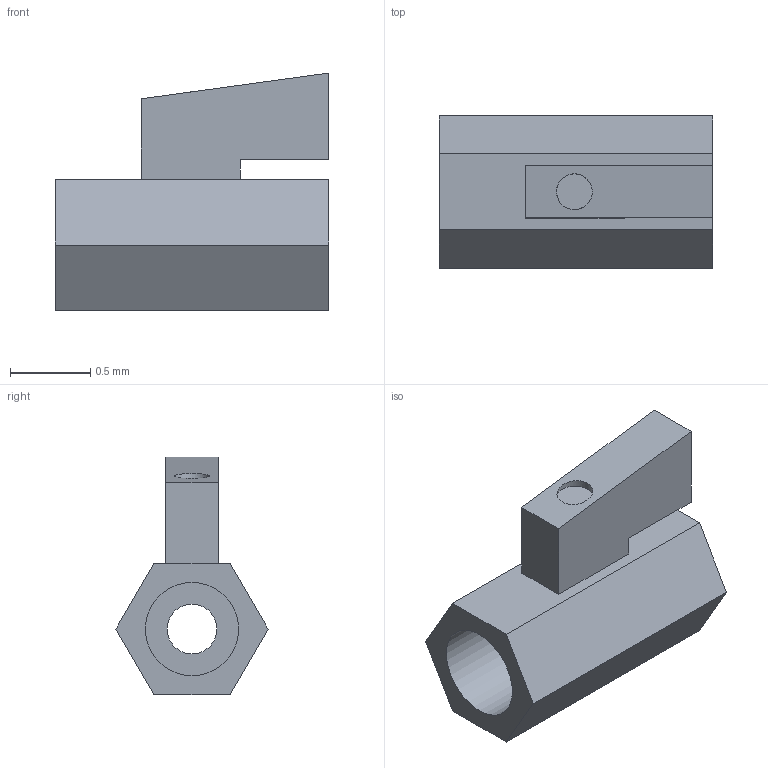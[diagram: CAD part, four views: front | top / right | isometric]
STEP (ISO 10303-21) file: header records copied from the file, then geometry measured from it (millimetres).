
FILE_DESCRIPTION(('Open CASCADE Model'),'2;1');
FILE_NAME('Open CASCADE Shape Model','2021-09-23T08:42:24',('Author'),( 'Open CASCADE'),'Open CASCADE STEP processor 7.3','Open CASCADE 7.3' ,'Unknown');
FILE_SCHEMA(('AUTOMOTIVE_DESIGN { 1 0 10303 214 1 1 1 1 }'));
Length unit declared in the file: millimetre
Products named in the file (1): Open CASCADE STEP translator 7.3 1
Bounding box: 1.7 x 0.95 x 1.48 mm (x, y, z)
Volume: 0.9 mm3; surface area: 10.3 mm2
Topology: 1 solids, 1 shells, 22 faces, 49 edges, 33 vertices
Faces by surface type: plane 18, cylinder 4
Full cylindrical faces by diameter (mm): 0.223 x1, 0.31 x1, 0.58 x2
Entity records: 1316 total; most frequent: CARTESIAN_POINT 285, DIRECTION 191, LINE 123, VECTOR 123, ORIENTED_EDGE 98, PCURVE 98, DEFINITIONAL_REPRESENTATION 98, EDGE_CURVE 49
